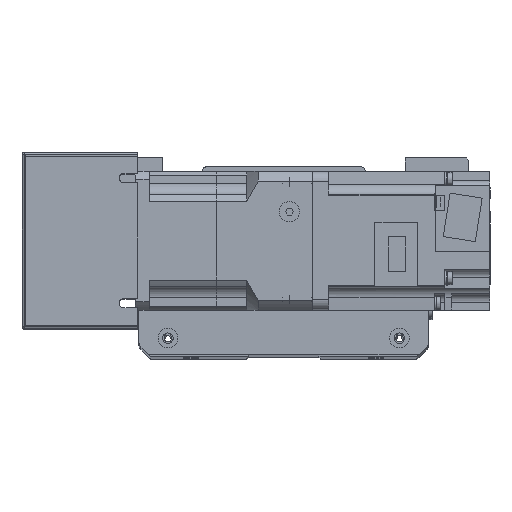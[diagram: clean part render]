
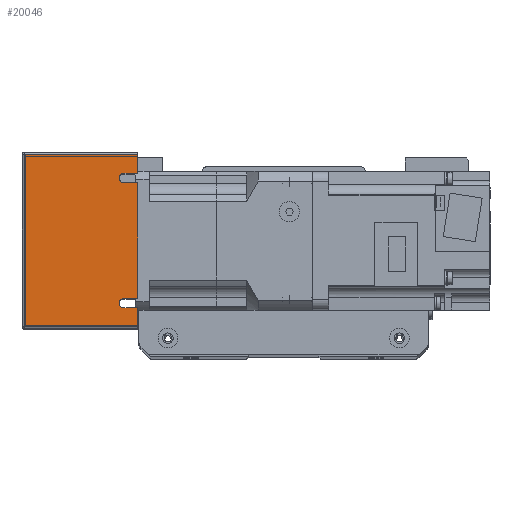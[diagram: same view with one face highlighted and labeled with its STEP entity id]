
A CAD part, top view. The second image highlights one B-rep face of the part: STEP entity #20046.
In plain terms, the highlighted planar face has unit normal (0, 0, 1) as drawn and (-1, 0, 0) by its records, which use the part's own axes.
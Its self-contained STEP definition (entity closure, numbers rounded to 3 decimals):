
#706=PLANE('',#22204);
#2036=LINE('',#33926,#3660);
#2045=LINE('',#33945,#3669);
#2052=LINE('',#33962,#3676);
#2060=LINE('',#33980,#3684);
#2073=LINE('',#34019,#3697);
#2078=LINE('',#34031,#3702);
#2082=LINE('',#34043,#3706);
#2085=LINE('',#34053,#3709);
#2086=LINE('',#34055,#3710);
#2087=LINE('',#34056,#3711);
#3660=VECTOR('',#27485,10.);
#3669=VECTOR('',#27498,10.);
#3676=VECTOR('',#27509,10.);
#3684=VECTOR('',#27521,10.);
#3697=VECTOR('',#27564,10.);
#3702=VECTOR('',#27575,10.);
#3706=VECTOR('',#27585,10.);
#3709=VECTOR('',#27596,10.);
#3710=VECTOR('',#27597,10.);
#3711=VECTOR('',#27598,10.);
#6028=FACE_OUTER_BOUND('',#7628,.T.);
#7628=EDGE_LOOP('',(#18009,#18010,#18011,#18012,#18013,#18014,#18015,#18016,
#18017,#18018,#18019,#18020));
#8768=CIRCLE('',#22182,2.);
#8773=CIRCLE('',#22190,2.);
#10457=VERTEX_POINT('',#33923);
#10458=VERTEX_POINT('',#33925);
#10464=VERTEX_POINT('',#33939);
#10466=VERTEX_POINT('',#33943);
#10473=VERTEX_POINT('',#33959);
#10474=VERTEX_POINT('',#33961);
#10481=VERTEX_POINT('',#33977);
#10482=VERTEX_POINT('',#33979);
#10493=VERTEX_POINT('',#34017);
#10502=VERTEX_POINT('',#34042);
#10505=VERTEX_POINT('',#34052);
#10506=VERTEX_POINT('',#34054);
#13008=EDGE_CURVE('',#10458,#10457,#2036,.T.);
#13017=EDGE_CURVE('',#10464,#10466,#2045,.T.);
#13024=EDGE_CURVE('',#10474,#10473,#2052,.T.);
#13032=EDGE_CURVE('',#10482,#10481,#2060,.T.);
#13038=EDGE_CURVE('',#10466,#10458,#8768,.T.);
#13049=EDGE_CURVE('',#10481,#10474,#8773,.T.);
#13054=EDGE_CURVE('',#10493,#10473,#2073,.T.);
#13061=EDGE_CURVE('',#10482,#10457,#2078,.T.);
#13067=EDGE_CURVE('',#10464,#10502,#2082,.T.);
#13072=EDGE_CURVE('',#10505,#10493,#2085,.T.);
#13073=EDGE_CURVE('',#10506,#10505,#2086,.T.);
#13074=EDGE_CURVE('',#10502,#10506,#2087,.T.);
#18009=ORIENTED_EDGE('',*,*,#13008,.T.);
#18010=ORIENTED_EDGE('',*,*,#13061,.F.);
#18011=ORIENTED_EDGE('',*,*,#13032,.T.);
#18012=ORIENTED_EDGE('',*,*,#13049,.T.);
#18013=ORIENTED_EDGE('',*,*,#13024,.T.);
#18014=ORIENTED_EDGE('',*,*,#13054,.F.);
#18015=ORIENTED_EDGE('',*,*,#13072,.F.);
#18016=ORIENTED_EDGE('',*,*,#13073,.F.);
#18017=ORIENTED_EDGE('',*,*,#13074,.F.);
#18018=ORIENTED_EDGE('',*,*,#13067,.F.);
#18019=ORIENTED_EDGE('',*,*,#13017,.T.);
#18020=ORIENTED_EDGE('',*,*,#13038,.T.);
#20046=ADVANCED_FACE('',(#6028),#706,.T.);
#22182=AXIS2_PLACEMENT_3D('',#33992,#27531,#27532);
#22190=AXIS2_PLACEMENT_3D('',#34010,#27553,#27554);
#22204=AXIS2_PLACEMENT_3D('',#34051,#27594,#27595);
#27485=DIRECTION('',(0.,0.,1.));
#27498=DIRECTION('',(0.,0.,-1.));
#27509=DIRECTION('',(0.,0.,1.));
#27521=DIRECTION('',(0.,0.,-1.));
#27531=DIRECTION('center_axis',(1.,0.,0.));
#27532=DIRECTION('ref_axis',(0.,0.,1.));
#27553=DIRECTION('center_axis',(1.,0.,0.));
#27554=DIRECTION('ref_axis',(0.,0.,1.));
#27564=DIRECTION('',(0.,-1.,0.));
#27575=DIRECTION('',(0.,-1.,0.));
#27585=DIRECTION('',(0.,-1.,0.));
#27594=DIRECTION('center_axis',(-1.,0.,0.));
#27595=DIRECTION('ref_axis',(0.,-1.,0.));
#27596=DIRECTION('',(0.,0.,1.));
#27597=DIRECTION('',(0.,1.,0.));
#27598=DIRECTION('',(0.,0.,-1.));
#33923=CARTESIAN_POINT('',(-91.,-25.,25.));
#33925=CARTESIAN_POINT('',(-91.,-25.,19.));
#33926=CARTESIAN_POINT('',(-91.,-25.,9.5));
#33939=CARTESIAN_POINT('',(-91.,-29.,25.));
#33943=CARTESIAN_POINT('',(-91.,-29.,19.));
#33945=CARTESIAN_POINT('',(-91.,-29.,15.178));
#33959=CARTESIAN_POINT('',(-91.,29.,25.));
#33961=CARTESIAN_POINT('',(-91.,29.,19.));
#33962=CARTESIAN_POINT('',(-91.,29.,9.5));
#33977=CARTESIAN_POINT('',(-91.,25.,19.));
#33979=CARTESIAN_POINT('',(-91.,25.,25.));
#33980=CARTESIAN_POINT('',(-91.,25.,15.178));
#33992=CARTESIAN_POINT('Origin',(-91.,-27.,19.));
#34010=CARTESIAN_POINT('Origin',(-91.,27.,19.));
#34017=CARTESIAN_POINT('',(-91.,37.,25.));
#34019=CARTESIAN_POINT('',(-91.,-38.,25.));
#34031=CARTESIAN_POINT('',(-91.,-38.,25.));
#34042=CARTESIAN_POINT('',(-91.,-37.,25.));
#34043=CARTESIAN_POINT('',(-91.,-38.,25.));
#34051=CARTESIAN_POINT('Origin',(-91.,38.,0.));
#34052=CARTESIAN_POINT('',(-91.,37.,-24.));
#34053=CARTESIAN_POINT('',(-91.,37.,0.));
#34054=CARTESIAN_POINT('',(-91.,-37.,-24.));
#34055=CARTESIAN_POINT('',(-91.,19.,-24.));
#34056=CARTESIAN_POINT('',(-91.,-37.,0.));
